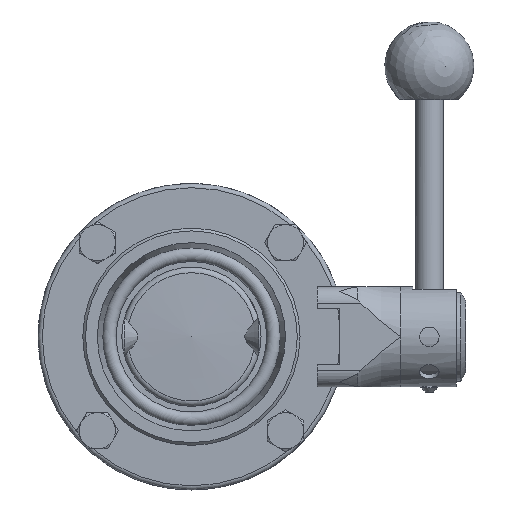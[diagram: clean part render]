
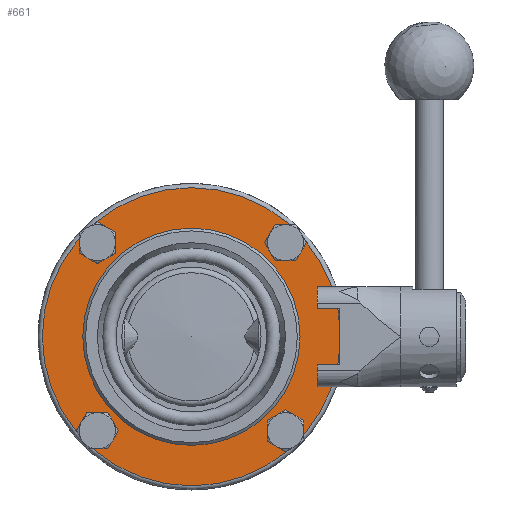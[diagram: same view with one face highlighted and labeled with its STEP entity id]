
A CAD part, front view. The second image highlights one B-rep face of the part: STEP entity #661.
In plain terms, the highlighted planar face has unit normal (0, -1, 0) as drawn and (1, 0, 0) by its records, which use the part's own axes.
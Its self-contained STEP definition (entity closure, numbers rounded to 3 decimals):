
#160=CARTESIAN_POINT('',(-6.056,-21.117,0.0));
#161=VERTEX_POINT('',#160);
#162=CARTESIAN_POINT('',(-6.056,17.883,0.0));
#163=DIRECTION('',(-1.0,0.0,0.0));
#164=DIRECTION('',(0.0,-1.0,0.0));
#165=AXIS2_PLACEMENT_3D('',#162,#163,#164);
#166=CIRCLE('',#165,39.);
#167=EDGE_CURVE('',#161,#161,#166,.T.);
#404=CARTESIAN_POINT('',(-6.056,47.397,33.764));
#405=VERTEX_POINT('',#404);
#406=CARTESIAN_POINT('',(-6.056,51.647,33.764));
#407=DIRECTION('',(-1.0,0.0,0.0));
#408=DIRECTION('',(0.0,1.0,0.0));
#409=AXIS2_PLACEMENT_3D('',#406,#407,#408);
#410=CIRCLE('',#409,4.25);
#411=EDGE_CURVE('',#405,#405,#410,.T.);
#424=CARTESIAN_POINT('',(-6.056,-15.882,29.514));
#425=VERTEX_POINT('',#424);
#426=CARTESIAN_POINT('',(-6.056,-15.882,33.764));
#427=DIRECTION('',(-1.0,0.0,0.0));
#428=DIRECTION('',(0.0,0.0,1.0));
#429=AXIS2_PLACEMENT_3D('',#426,#427,#428);
#430=CIRCLE('',#429,4.25);
#431=EDGE_CURVE('',#425,#425,#430,.T.);
#444=CARTESIAN_POINT('',(-6.056,-11.632,-33.764));
#445=VERTEX_POINT('',#444);
#446=CARTESIAN_POINT('',(-6.056,-15.882,-33.764));
#447=DIRECTION('',(-1.0,0.0,0.0));
#448=DIRECTION('',(0.0,-1.0,0.0));
#449=AXIS2_PLACEMENT_3D('',#446,#447,#448);
#450=CIRCLE('',#449,4.25);
#451=EDGE_CURVE('',#445,#445,#450,.T.);
#464=CARTESIAN_POINT('',(-6.056,51.647,-29.514));
#465=VERTEX_POINT('',#464);
#466=CARTESIAN_POINT('',(-6.056,51.647,-33.764));
#467=DIRECTION('',(-1.0,0.0,0.0));
#468=DIRECTION('',(0.0,0.0,-1.0));
#469=AXIS2_PLACEMENT_3D('',#466,#467,#468);
#470=CIRCLE('',#469,4.25);
#471=EDGE_CURVE('',#465,#465,#470,.T.);
#615=CARTESIAN_POINT('',(-6.056,-35.617,0.0));
#616=VERTEX_POINT('',#615);
#617=CARTESIAN_POINT('',(-6.056,17.883,0.0));
#618=DIRECTION('',(-1.0,0.0,0.0));
#619=DIRECTION('',(0.0,1.0,0.0));
#620=AXIS2_PLACEMENT_3D('',#617,#618,#619);
#621=CIRCLE('',#620,53.5);
#622=EDGE_CURVE('',#616,#616,#621,.T.);
#638=CARTESIAN_POINT('',(-6.056,-29.117,0.0));
#639=DIRECTION('',(1.0,0.0,0.0));
#640=DIRECTION('',(0.0,0.0,-1.0));
#641=AXIS2_PLACEMENT_3D('',#638,#639,#640);
#642=PLANE('',#641);
#643=ORIENTED_EDGE('',*,*,#622,.F.);
#644=EDGE_LOOP('',(#643));
#645=FACE_OUTER_BOUND('',#644,.T.);
#646=ORIENTED_EDGE('',*,*,#411,.T.);
#647=EDGE_LOOP('',(#646));
#648=FACE_BOUND('',#647,.T.);
#649=ORIENTED_EDGE('',*,*,#431,.T.);
#650=EDGE_LOOP('',(#649));
#651=FACE_BOUND('',#650,.T.);
#652=ORIENTED_EDGE('',*,*,#451,.T.);
#653=EDGE_LOOP('',(#652));
#654=FACE_BOUND('',#653,.T.);
#655=ORIENTED_EDGE('',*,*,#471,.T.);
#656=EDGE_LOOP('',(#655));
#657=FACE_BOUND('',#656,.T.);
#658=ORIENTED_EDGE('',*,*,#167,.T.);
#659=EDGE_LOOP('',(#658));
#660=FACE_BOUND('',#659,.T.);
#661=ADVANCED_FACE('',(#645,#648,#651,#654,#657,#660),#642,.T.);
